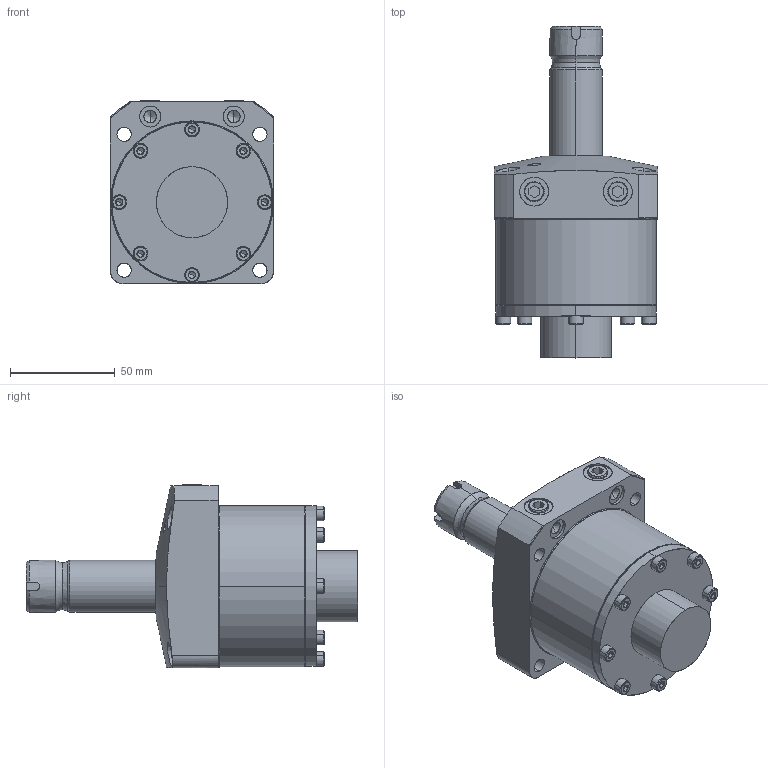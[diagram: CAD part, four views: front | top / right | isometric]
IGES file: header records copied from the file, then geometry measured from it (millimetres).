
Start section: SolidWorks IGES file using analytic representation for surfaces
Global section: file name: L:\電子カタログ-3D_IGES\WHA0630-2GR-F.igs; native system: SolidWorks 2009; preprocessor: SolidWorks 2009; author: D211; date: 100416.113441; units: millimetre
Bounding box: 78 x 158.8 x 87.8 mm (x, y, z)
Surface area: 61466.6 mm2 (no closed solid volume)
Topology: 0 solids, 0 shells, 434 faces, 6383 edges, 6351 vertices
Faces by surface type: revolution 251, bspline 183
